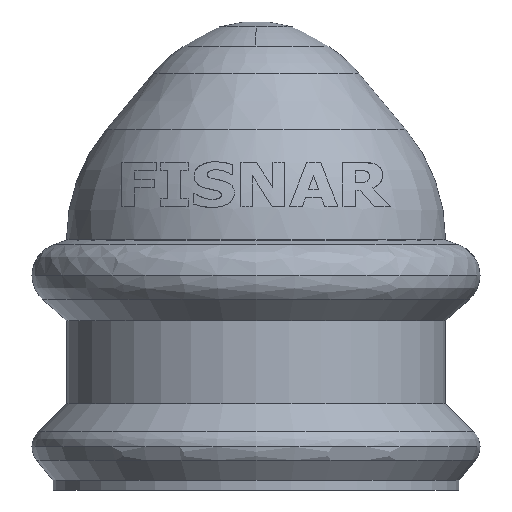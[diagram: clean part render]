
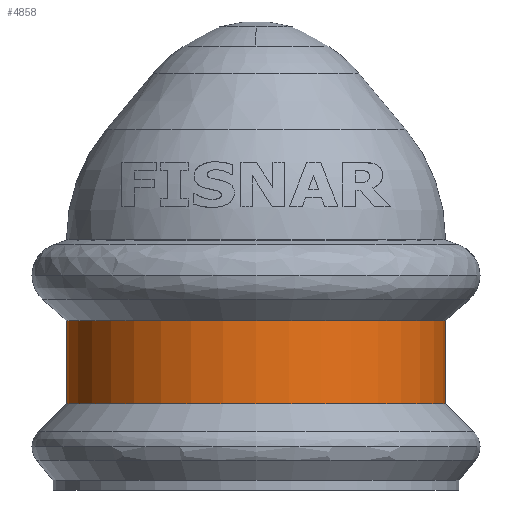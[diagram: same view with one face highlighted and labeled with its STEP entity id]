
A CAD part, front view. The second image highlights one B-rep face of the part: STEP entity #4858.
In plain terms, the highlighted cylindrical face has radius 9.9 mm (diameter 19.8 mm), a partial arc.
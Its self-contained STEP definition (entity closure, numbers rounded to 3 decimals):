
#14 = ORIENTED_EDGE ( 'NONE', *, *, #4172, .F. ) ;
#213 = VERTEX_POINT ( 'NONE', #5716 ) ;
#650 = ORIENTED_EDGE ( 'NONE', *, *, #8895, .T. ) ;
#665 = EDGE_CURVE ( 'NONE', #4771, #213, #1367, .T. ) ;
#1013 = VECTOR ( 'NONE', #4766, 1000. ) ;
#1027 = ORIENTED_EDGE ( 'NONE', *, *, #665, .T. ) ;
#1367 = CIRCLE ( 'NONE', #8500, 9.9 ) ;
#1385 = AXIS2_PLACEMENT_3D ( 'NONE', #1792, #7353, #3668 ) ;
#1419 = VERTEX_POINT ( 'NONE', #1495 ) ;
#1495 = CARTESIAN_POINT ( 'NONE',  ( 40.1, 50., 4.5 ) ) ;
#1792 = CARTESIAN_POINT ( 'NONE',  ( 50., 50., 12.257 ) ) ;
#1898 = EDGE_LOOP ( 'NONE', ( #6758, #14, #650, #1027 ) ) ;
#2305 = AXIS2_PLACEMENT_3D ( 'NONE', #3386, #2703, #3532 ) ;
#2588 = LINE ( 'NONE', #4765, #3166 ) ;
#2703 = DIRECTION ( 'NONE',  ( 0., 0., -1. ) ) ;
#3166 = VECTOR ( 'NONE', #8896, 1000. ) ;
#3386 = CARTESIAN_POINT ( 'NONE',  ( 50., 50., 4.5 ) ) ;
#3532 = DIRECTION ( 'NONE',  ( -1., 0., 0. ) ) ;
#3668 = DIRECTION ( 'NONE',  ( 1., 0., 0. ) ) ;
#3739 = CARTESIAN_POINT ( 'NONE',  ( 59.9, 50., 8.839 ) ) ;
#4131 = CARTESIAN_POINT ( 'NONE',  ( 59.9, 50., 4.5 ) ) ;
#4172 = EDGE_CURVE ( 'NONE', #5440, #1419, #7522, .T. ) ;
#4436 = FACE_OUTER_BOUND ( 'NONE', #1898, .T. ) ;
#4721 = CARTESIAN_POINT ( 'NONE',  ( 59.9, 50., 12.257 ) ) ;
#4765 = CARTESIAN_POINT ( 'NONE',  ( 40.1, 50., 12.257 ) ) ;
#4766 = DIRECTION ( 'NONE',  ( 0., 0., 1. ) ) ;
#4771 = VERTEX_POINT ( 'NONE', #3739 ) ;
#4858 = ADVANCED_FACE ( 'NONE', ( #4436 ), #8026, .T. ) ;
#5440 = VERTEX_POINT ( 'NONE', #4131 ) ;
#5458 = DIRECTION ( 'NONE',  ( 0., 0., -1. ) ) ;
#5504 = DIRECTION ( 'NONE',  ( 1., 0., 0. ) ) ;
#5716 = CARTESIAN_POINT ( 'NONE',  ( 40.1, 50., 8.839 ) ) ;
#6185 = CARTESIAN_POINT ( 'NONE',  ( 50., 50., 8.839 ) ) ;
#6694 = LINE ( 'NONE', #4721, #1013 ) ;
#6758 = ORIENTED_EDGE ( 'NONE', *, *, #7611, .F. ) ;
#7353 = DIRECTION ( 'NONE',  ( 0., 0., 1. ) ) ;
#7522 = CIRCLE ( 'NONE', #2305, 9.9 ) ;
#7611 = EDGE_CURVE ( 'NONE', #1419, #213, #2588, .T. ) ;
#8026 = CYLINDRICAL_SURFACE ( 'NONE', #1385, 9.9 ) ;
#8500 = AXIS2_PLACEMENT_3D ( 'NONE', #6185, #5458, #5504 ) ;
#8895 = EDGE_CURVE ( 'NONE', #5440, #4771, #6694, .T. ) ;
#8896 = DIRECTION ( 'NONE',  ( 0., 0., 1. ) ) ;
